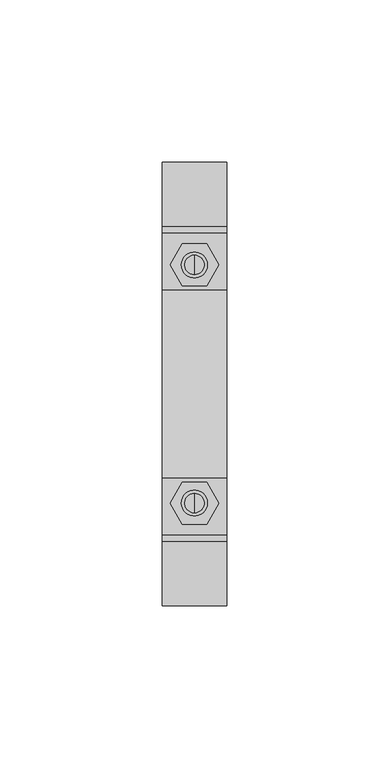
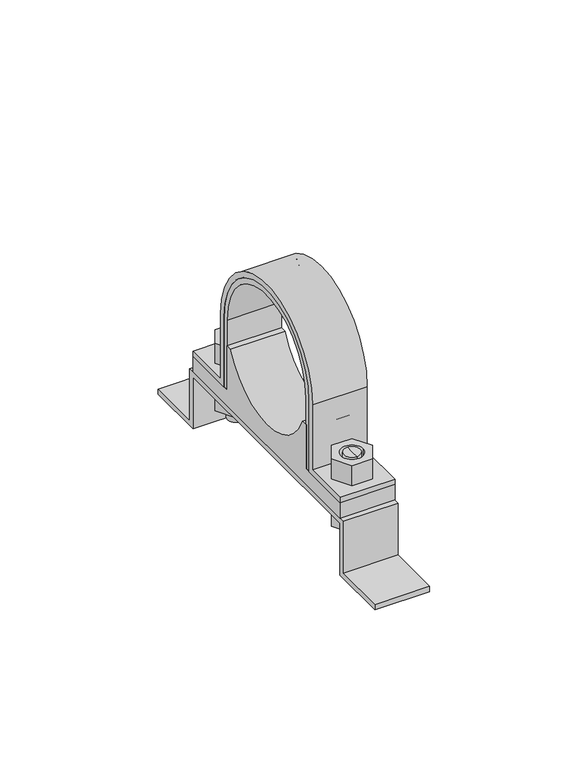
"""IFC4 building model written with IfcOpenShell, lengths in millimetres: valve geometry, Superfix DG3 Clamp : Superfix DG3 Clamp."""

from ifc_helpers import new_model, si_unit, point, frame, frame_2d, origin, place, context, project, spatial, polyline, circle_curve, trimmed, segment, composite_curve, outline, extrude, source, transform, mapped, element, save
from ifc_brep_helpers import plane_surface, cylinder_surface, advanced_brep


def valve_135a96ef(model_context):
    return source(origin(), model_context, "Body", "SolidModel", [
        advanced_brep(
        [(0.0, 39.75, 7.0), (0.0, 33.75, 7.0), (0.0, 33.75, 20.0), (0.0, 39.75, 20.0), (0.0, 36.75, 7.0)],
        [
            (0, 1, circle_curve(frame((0.0, 36.75, 7.0), z_axis=(0.0, 0.0, 1.0), x_axis=(0.0, 1.0, 0.0)), 3.0)),
            (1, 2),
            (2, 3, circle_curve(frame((0.0, 36.75, 20.0), z_axis=(0.0, 0.0, -1.0), x_axis=(0.0, 1.0, 0.0)), 3.0)),
            (3, 0),
            (1, 0, circle_curve(frame((0.0, 36.75, 7.0), z_axis=(0.0, 0.0, 1.0), x_axis=(0.0, 1.0, 0.0)), 3.0)),
            (3, 2, circle_curve(frame((0.0, 36.75, 20.0), z_axis=(0.0, 0.0, -1.0), x_axis=(0.0, 1.0, 0.0)), 3.0)),
            (0, 4),
            (4, 1),
        ],
        [
            cylinder_surface(frame((0.0, 36.75, 53.2806094), z_axis=(0.0, 0.0, 1.0), x_axis=(0.0, 1.0, 0.0)), 3.0),
            plane_surface(frame((0.0, 36.75, 7.0), z_axis=(0.0, 0.0, -1.0), x_axis=(0.0, 1.0, 0.0))),
            plane_surface(frame((13.75, -46.5, 20.0), z_axis=(0.0, 0.0, 1.0), x_axis=(-1.0, 0.0, 0.0))),
        ],
        [
            (0, [[1, 2, 3, 4]]),
            (0, [[5, -4, 6, -2]]),
            (1, [[-1, 7, 8]]),
            (1, [[-5, -8, -7]]),
            (2, [[-3, -6]]),
        ],
    ),
        advanced_brep(
        [(0.0, 33.75, 38.0), (0.0, 39.75, 38.0), (0.0, 39.75, 28.0), (0.0, 33.75, 28.0), (0.0, 36.75, 38.0)],
        [
            (0, 1, circle_curve(frame((0.0, 36.75, 38.0), z_axis=(0.0, 0.0, -1.0), x_axis=(0.0, 1.0, 0.0)), 3.0)),
            (1, 2),
            (2, 3, circle_curve(frame((0.0, 36.75, 28.0), z_axis=(0.0, 0.0, 1.0), x_axis=(0.0, 1.0, 0.0)), 3.0)),
            (3, 0),
            (1, 0, circle_curve(frame((0.0, 36.75, 38.0), z_axis=(0.0, 0.0, -1.0), x_axis=(0.0, 1.0, 0.0)), 3.0)),
            (3, 2, circle_curve(frame((0.0, 36.75, 28.0), z_axis=(0.0, 0.0, 1.0), x_axis=(0.0, 1.0, 0.0)), 3.0)),
            (0, 4),
            (4, 1),
        ],
        [
            cylinder_surface(frame((0.0, 36.75, 53.2806094), z_axis=(0.0, 0.0, 1.0), x_axis=(0.0, 1.0, 0.0)), 3.0),
            plane_surface(frame((0.0, 36.75, 38.0), z_axis=(0.0, 0.0, 1.0), x_axis=(0.0, 1.0, 0.0))),
            plane_surface(frame((13.75, 46.5, 28.0), z_axis=(0.0, 0.0, -1.0), x_axis=(-1.0, 0.0, 0.0))),
        ],
        [
            (0, [[1, 2, 3, 4]]),
            (0, [[5, -4, 6, -2]]),
            (1, [[-1, 7, 8]]),
            (1, [[-5, -8, -7]]),
            (2, [[-3, -6]]),
        ],
    ),
        advanced_brep(
        [(0.0, -39.75, 38.0), (0.0, -33.75, 38.0), (0.0, -33.75, 28.0), (0.0, -39.75, 28.0), (0.0, -36.75, 38.0)],
        [
            (0, 1, circle_curve(frame((0.0, -36.75, 38.0), z_axis=(0.0, 0.0, -1.0), x_axis=(0.0, -1.0, 0.0)), 3.0)),
            (1, 2),
            (2, 3, circle_curve(frame((0.0, -36.75, 28.0), z_axis=(0.0, 0.0, 1.0), x_axis=(0.0, -1.0, 0.0)), 3.0)),
            (3, 0),
            (1, 0, circle_curve(frame((0.0, -36.75, 38.0), z_axis=(0.0, 0.0, -1.0), x_axis=(0.0, -1.0, 0.0)), 3.0)),
            (3, 2, circle_curve(frame((0.0, -36.75, 28.0), z_axis=(0.0, 0.0, 1.0), x_axis=(0.0, -1.0, 0.0)), 3.0)),
            (0, 4),
            (4, 1),
        ],
        [
            cylinder_surface(frame((0.0, -36.75, 53.2806094), z_axis=(0.0, 0.0, -1.0), x_axis=(0.0, -1.0, 0.0)), 3.0),
            plane_surface(frame((0.0, -36.75, 38.0), z_axis=(0.0, 0.0, 1.0), x_axis=(0.0, -1.0, 0.0))),
            plane_surface(frame((13.75, 46.5, 28.0), z_axis=(0.0, 0.0, -1.0), x_axis=(-1.0, 0.0, 0.0))),
        ],
        [
            (0, [[1, 2, 3, 4]]),
            (0, [[5, -4, 6, -2]]),
            (1, [[-1, 7, 8]]),
            (1, [[-5, -8, -7]]),
            (2, [[-3, -6]]),
        ],
    ),
        advanced_brep(
        [(0.0, -33.75, 7.0), (0.0, -39.75, 7.0), (0.0, -39.75, 20.0), (0.0, -33.75, 20.0), (0.0, -36.75, 7.0)],
        [
            (0, 1, circle_curve(frame((0.0, -36.75, 7.0), z_axis=(0.0, 0.0, 1.0), x_axis=(0.0, -1.0, 0.0)), 3.0)),
            (1, 2),
            (2, 3, circle_curve(frame((0.0, -36.75, 20.0), z_axis=(0.0, 0.0, -1.0), x_axis=(0.0, -1.0, 0.0)), 3.0)),
            (3, 0),
            (1, 0, circle_curve(frame((0.0, -36.75, 7.0), z_axis=(0.0, 0.0, 1.0), x_axis=(0.0, -1.0, 0.0)), 3.0)),
            (3, 2, circle_curve(frame((0.0, -36.75, 20.0), z_axis=(0.0, 0.0, -1.0), x_axis=(0.0, -1.0, 0.0)), 3.0)),
            (0, 4),
            (4, 1),
        ],
        [
            cylinder_surface(frame((0.0, -36.75, 53.2806094), z_axis=(0.0, 0.0, -1.0), x_axis=(0.0, -1.0, 0.0)), 3.0),
            plane_surface(frame((0.0, -36.75, 7.0), z_axis=(0.0, 0.0, -1.0), x_axis=(0.0, -1.0, 0.0))),
            plane_surface(frame((13.75, -46.5, 20.0), z_axis=(0.0, 0.0, 1.0), x_axis=(-1.0, 0.0, 0.0))),
        ],
        [
            (0, [[1, 2, 3, 4]]),
            (0, [[5, -4, 6, -2]]),
            (1, [[-1, 7, 8]]),
            (1, [[-5, -8, -7]]),
            (2, [[-3, -6]]),
        ],
    ),
        extrude(outline(composite_curve([segment(trimmed(circle_curve(frame_2d((0.0, 55.0)), 27.0), [point((27.0, 55.0))], [point((-27.0, 55.0))], True, "CARTESIAN"), True, "CONTINUOUS"), segment(polyline([(-27.0, 55.0), (-27.0, 28.0), (-46.5, 28.0), (-46.5, 30.0), (-29.0, 30.0), (-29.0, 55.0)]), True, "CONTINUOUS"), segment(trimmed(circle_curve(frame_2d((0.0, 55.0)), 29.0), [point((-29.0, 55.0))], [point((29.0, 55.0))], False, "CARTESIAN"), True, "CONTINUOUS"), segment(polyline([(29.0, 55.0), (29.0, 30.0), (46.5, 30.0), (46.5, 28.0), (27.0, 28.0), (27.0, 55.0)]), True, "CONTINUOUS")], self_intersect=False)), frame((-10.0, 0.0, 0.0), z_axis=(1.0, 0.0, 0.0), x_axis=(0.0, 1.0, 0.0)), (0.0, 0.0, 1.0), 20.0),
        extrude(outline(polyline([(7.5055535, -36.75), (3.7527767, -43.25), (-3.7527767, -43.25), (-7.5055535, -36.75), (-3.7527767, -30.25), (3.7527767, -30.25), (7.5055535, -36.75)]), holes=[composite_curve([segment(trimmed(circle_curve(frame_2d((0.0, -36.75)), 4.0), [point((4.0, -36.75))], [point((-4.0, -36.75))], True, "CARTESIAN"), True, "CONTINUOUS"), segment(trimmed(circle_curve(frame_2d((0.0, -36.75)), 4.0), [point((-4.0, -36.75))], [point((4.0, -36.75))], True, "CARTESIAN"), True, "CONTINUOUS")], self_intersect=False)]), frame((0.0, 0.0, 30.0), z_axis=(0.0, 0.0, 1.0), x_axis=(1.0, 0.0, 0.0)), (0.0, 0.0, 1.0), 8.0),
        extrude(outline(polyline([(7.5055535, 36.75), (3.7527767, 30.25), (-3.7527767, 30.25), (-7.5055535, 36.75), (-3.7527767, 43.25), (3.7527767, 43.25), (7.5055535, 36.75)]), holes=[composite_curve([segment(trimmed(circle_curve(frame_2d((0.0, 36.75)), 4.0), [point((4.0, 36.75))], [point((-4.0, 36.75))], True, "CARTESIAN"), True, "CONTINUOUS"), segment(trimmed(circle_curve(frame_2d((0.0, 36.75)), 4.0), [point((-4.0, 36.75))], [point((4.0, 36.75))], True, "CARTESIAN"), True, "CONTINUOUS")], self_intersect=False)]), frame((0.0, 0.0, 30.0), z_axis=(0.0, 0.0, 1.0), x_axis=(1.0, 0.0, 0.0)), (0.0, 0.0, 1.0), 8.0),
        extrude(outline(polyline([(7.5055535, -36.75), (3.7527767, -43.25), (-3.7527767, -43.25), (-7.5055535, -36.75), (-3.7527767, -30.25), (3.7527767, -30.25), (7.5055535, -36.75)]), holes=[composite_curve([segment(trimmed(circle_curve(frame_2d((0.0, -36.75)), 4.0), [point((4.0, -36.75))], [point((-4.0, -36.75))], True, "CARTESIAN"), True, "CONTINUOUS"), segment(trimmed(circle_curve(frame_2d((0.0, -36.75)), 4.0), [point((-4.0, -36.75))], [point((4.0, -36.75))], True, "CARTESIAN"), True, "CONTINUOUS")], self_intersect=False)]), frame((0.0, 0.0, 12.0), z_axis=(0.0, 0.0, 1.0), x_axis=(1.0, 0.0, 0.0)), (0.0, 0.0, 1.0), 8.0),
        extrude(outline(polyline([(7.5055535, 36.75), (3.7527767, 30.25), (-3.7527767, 30.25), (-7.5055535, 36.75), (-3.7527767, 43.25), (3.7527767, 43.25), (7.5055535, 36.75)]), holes=[composite_curve([segment(trimmed(circle_curve(frame_2d((0.0, 36.75)), 4.0), [point((4.0, 36.75))], [point((-4.0, 36.75))], True, "CARTESIAN"), True, "CONTINUOUS"), segment(trimmed(circle_curve(frame_2d((0.0, 36.75)), 4.0), [point((-4.0, 36.75))], [point((4.0, 36.75))], True, "CARTESIAN"), True, "CONTINUOUS")], self_intersect=False)]), frame((0.0, 0.0, 12.0), z_axis=(0.0, 0.0, 1.0), x_axis=(1.0, 0.0, 0.0)), (0.0, 0.0, 1.0), 8.0),
        extrude(outline(composite_curve([segment(polyline([(-46.5, 22.0), (-46.5, 28.0), (-25.0, 28.0), (-25.0, 45.0), (-22.9128785, 45.0)]), True, "CONTINUOUS"), segment(trimmed(circle_curve(frame_2d((0.0, 55.0)), 25.0), [point((-22.9128785, 45.0))], [point((22.9128785, 45.0))], True, "CARTESIAN"), True, "CONTINUOUS"), segment(polyline([(22.9128785, 45.0), (25.0, 45.0), (25.0, 28.0), (46.5, 28.0), (46.5, 22.0), (-46.5, 22.0)]), True, "CONTINUOUS")], self_intersect=False)), frame((-10.0, 0.0, 0.0), z_axis=(1.0, 0.0, 0.0), x_axis=(0.0, 1.0, 0.0)), (0.0, 0.0, 1.0), 20.0),
        extrude(outline(polyline([(-68.5, 2.0), (-48.5, 2.0), (-48.5, 22.0), (0.0, 22.0), (48.5, 22.0), (48.5, 2.0), (68.5, 2.0), (68.5, 0.0), (46.5, 0.0), (46.5, 20.0), (0.0, 20.0), (-46.5, 20.0), (-46.5, 0.0), (-68.5, 0.0), (-68.5, 2.0)])), frame((-10.0, 0.0, 0.0), z_axis=(1.0, 0.0, 0.0), x_axis=(0.0, 1.0, 0.0)), (0.0, 0.0, 1.0), 20.0),
        extrude(outline(composite_curve([segment(trimmed(circle_curve(frame_2d((0.0, 55.0)), 25.0), [point((25.0, 55.0))], [point((-25.0, 55.0))], True, "CARTESIAN"), True, "CONTINUOUS"), segment(polyline([(-25.0, 55.0), (-25.0, 28.0), (-27.0, 28.0), (-27.0, 55.0)]), True, "CONTINUOUS"), segment(trimmed(circle_curve(frame_2d((0.0, 55.0)), 27.0), [point((-27.0, 55.0))], [point((27.0, 55.0))], False, "CARTESIAN"), True, "CONTINUOUS"), segment(polyline([(27.0, 55.0), (27.0, 28.0), (25.0, 28.0), (25.0, 55.0)]), True, "CONTINUOUS")], self_intersect=False)), frame((-10.0, 0.0, 0.0), z_axis=(1.0, 0.0, 0.0), x_axis=(0.0, 1.0, 0.0)), (0.0, 0.0, 1.0), 20.0),
    ])


if __name__ == "__main__":
    model = new_model("IFC4")
    model_context = context("Model", 3, world=origin())
    ifc_project = project(units=[si_unit("LENGTHUNIT", "METRE", prefix="MILLI")], contexts=[model_context])
    site = spatial("IfcSite", under=ifc_project)
    building = spatial("IfcBuilding", under=site)
    placement = place(None, origin())
    valve_shape = valve_135a96ef(model_context)
    element("IfcValve", 1, ObjectType="Superfix DG3 Clamp : Superfix DG3 Clamp", at=placement, inside=building, context=model_context, shape_type="MappedRepresentation", body=[
        mapped(valve_shape, transform((0.0, 0.0, 0.0), x_axis=(1.0, 0.0, 0.0), y_axis=(0.0, 1.0, 0.0), z_axis=(0.0, 0.0, 1.0))),
    ])
    save(model, "model.ifc")
